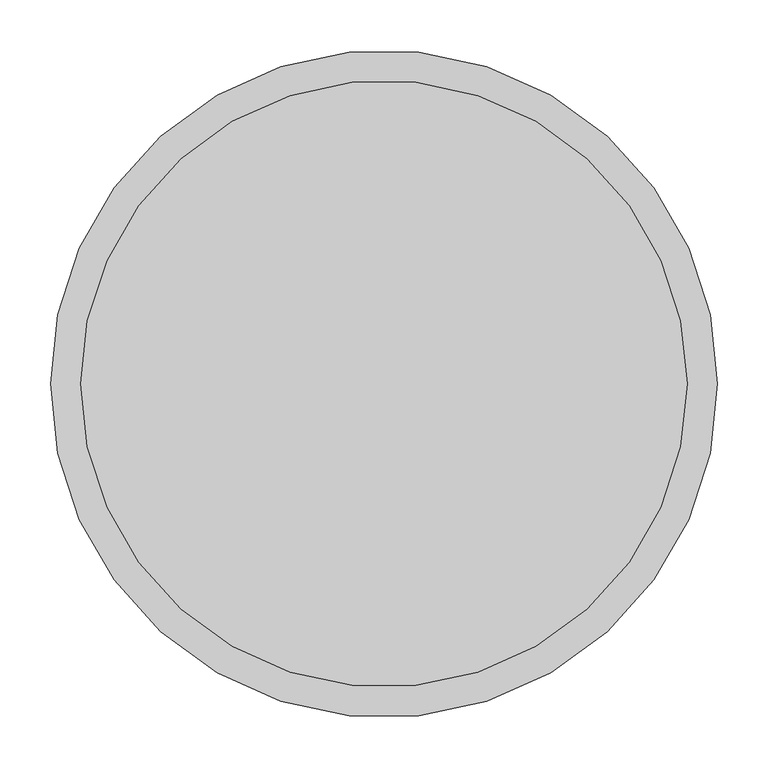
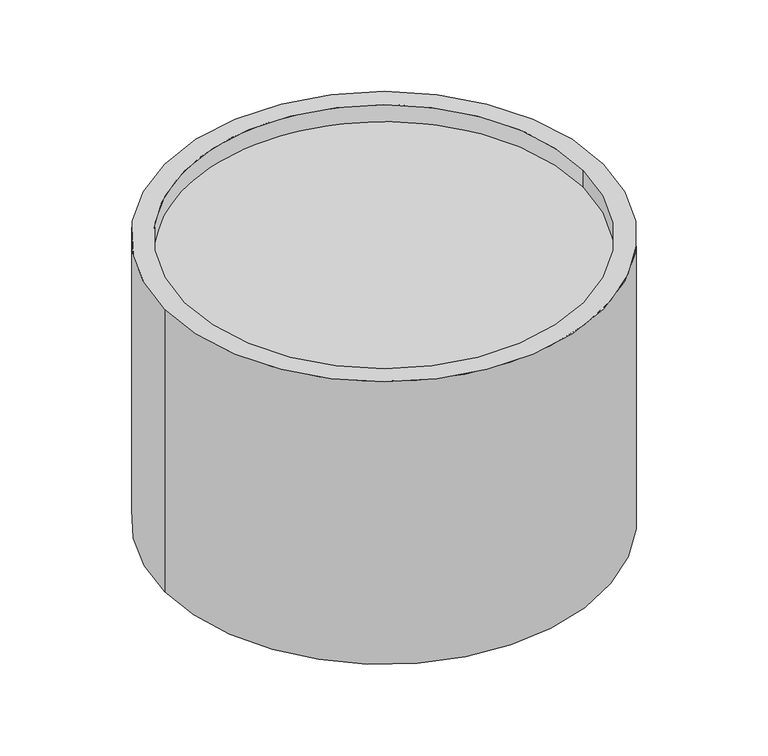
"""IFC4 building model written with IfcOpenShell, lengths in millimetres: furniture geometry, Mobile Ausstattung Pflanzgefäss : Pflanzgefäss."""

from ifc_helpers import new_model, si_unit, point, frame, origin, origin_with_axes, origin_2d, place, context, project, spatial, circle_curve, trimmed, segment, composite_curve, outline, extrude, source, transform, mapped, element, save


def furniture_189685f6(model_context):
    return source(origin(), model_context, "Body", "SweptSolid", [
        extrude(outline(composite_curve([segment(trimmed(circle_curve(origin_2d(), 300.0), [point((-300.0, 0.0))], [point((300.0, 0.0))], False, "CARTESIAN"), True, "CONTINUOUS"), segment(trimmed(circle_curve(origin_2d(), 300.0), [point((300.0, 0.0))], [point((-300.0, 0.0))], False, "CARTESIAN"), True, "CONTINUOUS")], self_intersect=False)), origin_with_axes(), (0.0, 0.0, 1.0), 50.0),
        extrude(outline(composite_curve([segment(trimmed(circle_curve(origin_2d(), 300.0), [point((-300.0, 0.0))], [point((300.0, 0.0))], False, "CARTESIAN"), True, "CONTINUOUS"), segment(trimmed(circle_curve(origin_2d(), 300.0), [point((300.0, 0.0))], [point((-300.0, 0.0))], False, "CARTESIAN"), True, "CONTINUOUS")], self_intersect=False)), frame((0.0, 0.0, 50.0), z_axis=(0.0, 0.0, 1.0), x_axis=(1.0, 0.0, 0.0)), (0.0, 0.0, 1.0), 373.3787473),
        extrude(outline(composite_curve([segment(trimmed(circle_curve(origin_2d(), 330.0), [point((-330.0, 0.0))], [point((330.0, 0.0))], False, "CARTESIAN"), True, "CONTINUOUS"), segment(trimmed(circle_curve(origin_2d(), 330.0), [point((330.0, 0.0))], [point((-330.0, 0.0))], False, "CARTESIAN"), True, "CONTINUOUS")], self_intersect=False), holes=[composite_curve([segment(trimmed(circle_curve(origin_2d(), 300.0), [point((-300.0, 0.0))], [point((300.0, 0.0))], True, "CARTESIAN"), True, "CONTINUOUS"), segment(trimmed(circle_curve(origin_2d(), 300.0), [point((300.0, 0.0))], [point((-300.0, 0.0))], True, "CARTESIAN"), True, "CONTINUOUS")], self_intersect=False)]), origin_with_axes(), (0.0, 0.0, 1.0), 450.0),
    ])


if __name__ == "__main__":
    model = new_model("IFC4")
    model_context = context("Model", 3, world=origin())
    ifc_project = project(units=[si_unit("LENGTHUNIT", "METRE", prefix="MILLI")], contexts=[model_context])
    site = spatial("IfcSite", under=ifc_project)
    building = spatial("IfcBuilding", under=site)
    placement = place(None, origin())
    furniture_shape = furniture_189685f6(model_context)
    element("IfcFurniture", 1, ObjectType="Mobile Ausstattung Pflanzgefäss : Pflanzgefäss", at=placement, inside=building, context=model_context, shape_type="MappedRepresentation", body=[
        mapped(furniture_shape, transform((0.0, 0.0, 0.0), x_axis=(1.0, 0.0, 0.0), y_axis=(0.0, 1.0, 0.0), z_axis=(0.0, 0.0, 1.0))),
    ])
    save(model, "model.ifc")
